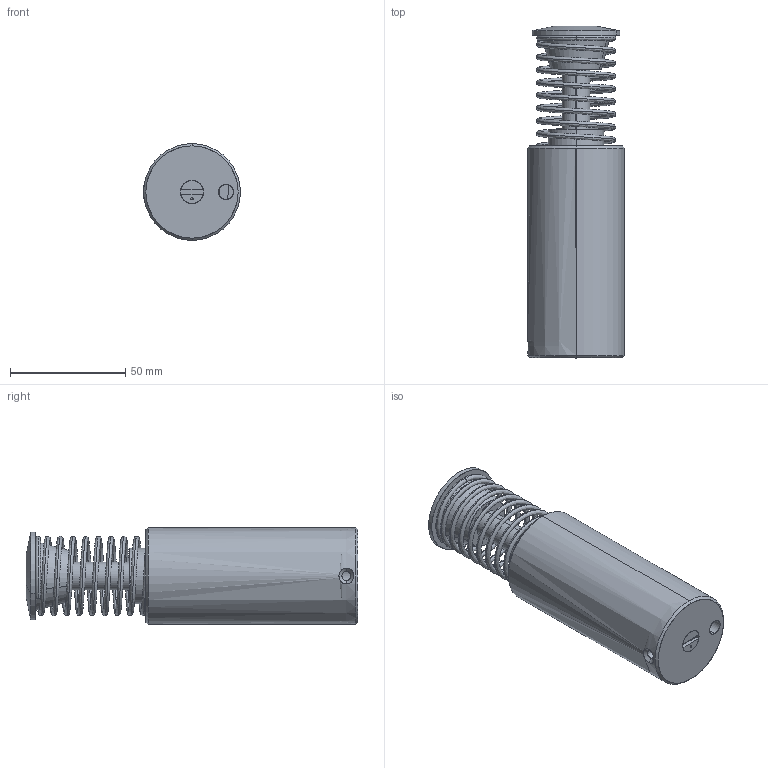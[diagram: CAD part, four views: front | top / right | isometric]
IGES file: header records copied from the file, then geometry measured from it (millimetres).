
Start section: SolidWorks IGES file using analytic representation for surfaces
Bounding box: 42 x 144 x 42 mm (x, y, z)
Surface area: 31177 mm2 (no closed solid volume)
Topology: 0 solids, 0 shells, 96 faces, 1665 edges, 1663 vertices
Faces by surface type: revolution 58, bspline 38
